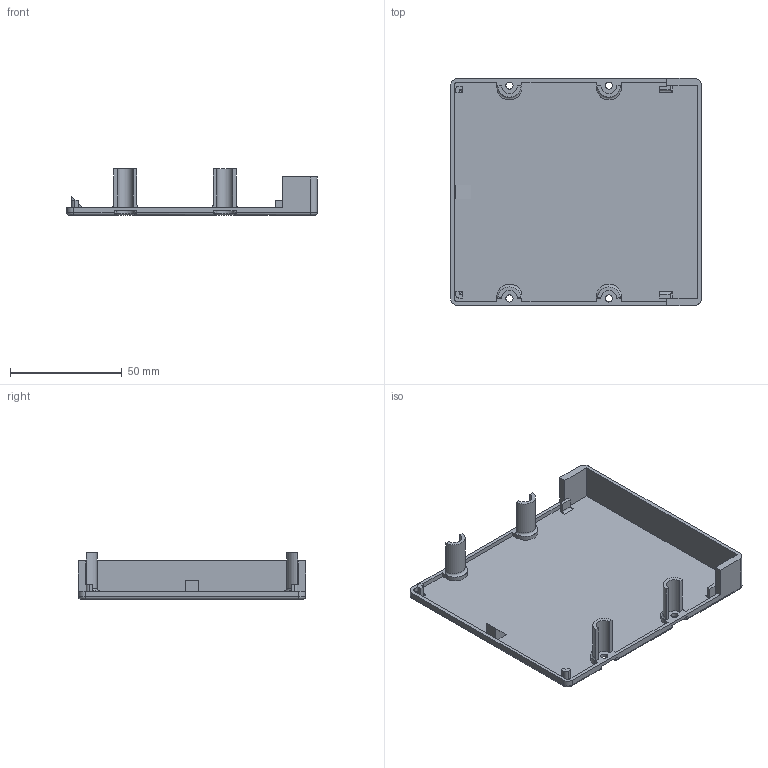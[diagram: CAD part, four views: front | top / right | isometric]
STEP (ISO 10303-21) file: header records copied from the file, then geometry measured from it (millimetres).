
FILE_DESCRIPTION(/* description */ (''),/* implementation_level */ '2;1');
FILE_NAME(/* name */ 'E:/OneDrive/projects/3.5 Hard Drive 50-pin SCSI PCB/123d design/New folder/3.5 Hard Drive Case 50-pin SCSI ED 100 top cover.stp',/* time_stamp */ '2022-01-04T23:32:51-05:00',/* author */ (''),/* organization */ (''),/* preprocessor_version */ 'ST-DEVELOPER v15.2',/* originating_system */ 'Autodesk Translator Framework v2.0.0.5431',/* authorisation */ '');
FILE_SCHEMA (('AUTOMOTIVE_DESIGN { 1 0 10303 214 3 1 1 }'));
Length unit declared in the file: centimetre
Products named in the file (1): 3.5 Hard Drive Case 50-pin SCSI ED 100 top cover
Bounding box: 112 x 101.6 x 20.66 mm (x, y, z)
Volume: 24694.9 mm3; surface area: 30875.6 mm2
Topology: 1 solids, 1 shells, 164 faces, 441 edges, 274 vertices
Faces by surface type: plane 84, cylinder 60, torus 12, bspline 8
Full cylindrical faces by diameter (mm): 3.2 x4
Entity records: 5360 total; most frequent: CARTESIAN_POINT 1252, ORIENTED_EDGE 858, DIRECTION 847, EDGE_CURVE 429, AXIS2_PLACEMENT_3D 285, LINE 277, VECTOR 277, VERTEX_POINT 274
